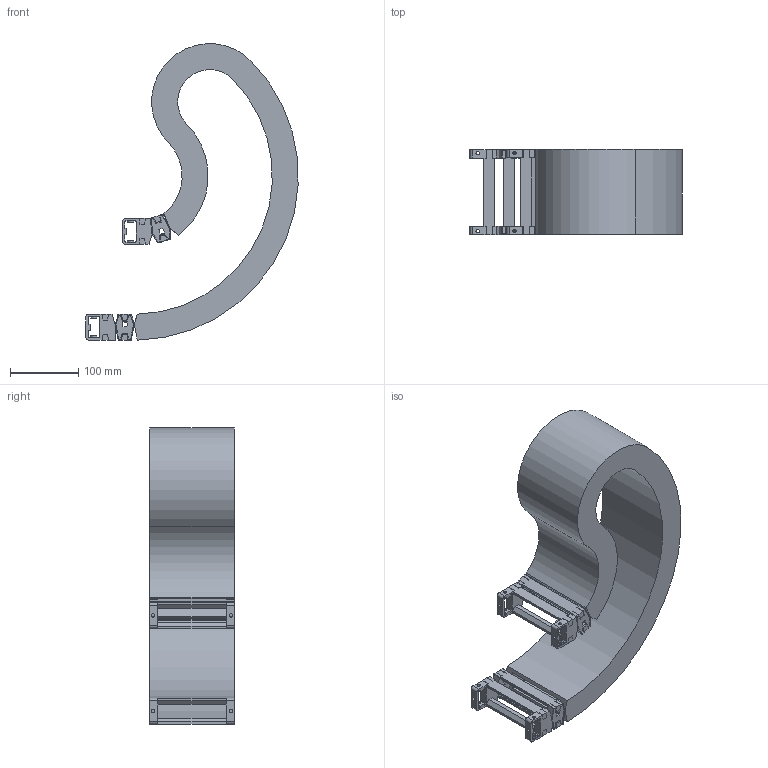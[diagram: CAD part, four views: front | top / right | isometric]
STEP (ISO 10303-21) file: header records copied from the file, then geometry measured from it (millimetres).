
FILE_DESCRIPTION( ( 'STEP AP214' ), '1' );
FILE_NAME( 'e:/temp/worker_65/temp/exporttempdir_7276_59_ajvCy/format_1/RV028CRA1241307050170200-001001280.02446.stp', '2021-07-26T13:33:22', ( 'License CC BY-ND 4.0' ), ( 'CADENAS' ), ' ', 'PARTsolutions', ' ' );
FILE_SCHEMA( ( 'AUTOMOTIVE_DESIGN { 1 0 10303 214 1 1 1 1 }' ) );
Length unit declared in the file: millimetre
Products named in the file (5): RV028CRA1241307050170200-001001280.02446; _RV028CRA1241307050170200-00100793.324-Chain; _RV028CR-SU-28-100; _RV028CR_FB-124; _RV028CR_MB-124
Assembly tree (5 placements, depth 2):
  RV028CRA1241307050170200-001001280.02446
    _RV028CRA1241307050170200-00100793.324-Chain
    _RV028CR-SU-28-100  x2
    _RV028CR_FB-124
    _RV028CR_MB-124
Bounding box: 310.39 x 124 x 433.46 mm (x, y, z)
Volume: 1857929.7 mm3; surface area: 582907.4 mm2
Topology: 5 solids, 5 shells, 612 faces, 1844 edges, 1204 vertices
Faces by surface type: plane 472, cylinder 140
Full cylindrical faces by diameter (mm): 5 x12
Entity records: 18814 total; most frequent: CARTESIAN_POINT 2676, ORIENTED_EDGE 2672, DIRECTION 2480, EDGE_CURVE 1336, LINE 1112, VECTOR 1112, VERTEX_POINT 880, AXIS2_PLACEMENT_3D 684
